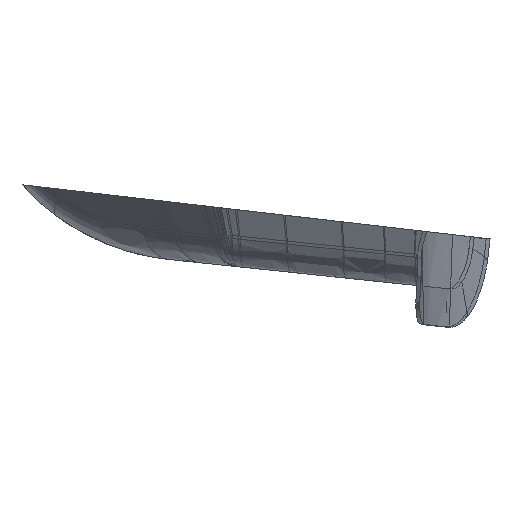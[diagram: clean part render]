
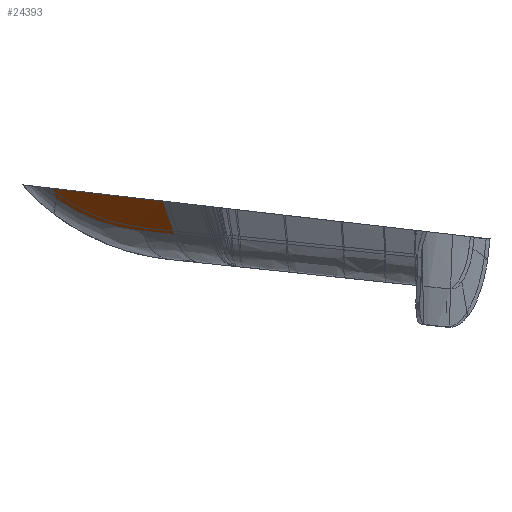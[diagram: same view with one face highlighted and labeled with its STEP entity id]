
A CAD part, front view. The second image highlights one B-rep face of the part: STEP entity #24393.
In plain terms, the highlighted free-form (B-spline) face has degree [5, 1] with [6, 2] control points.
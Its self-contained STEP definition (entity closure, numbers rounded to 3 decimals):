
#12303=CARTESIAN_POINT(' ',(-580.187,-673.21,-132.286));
#12304=VERTEX_POINT('',#12303);
#12318=CARTESIAN_POINT(' ',(-522.184,-719.062,-138.994));
#12319=VERTEX_POINT('',#12318);
#12320=CARTESIAN_POINT(' ',(-522.184,-719.062,-138.994));
#12321=CARTESIAN_POINT(' ',(-522.935,-718.526,-138.908));
#12322=CARTESIAN_POINT(' ',(-523.685,-717.991,-138.821));
#12323=CARTESIAN_POINT(' ',(-524.435,-717.454,-138.734));
#12324=CARTESIAN_POINT(' ',(-525.183,-716.916,-138.647));
#12325=CARTESIAN_POINT(' ',(-525.93,-716.375,-138.561));
#12326=CARTESIAN_POINT(' ',(-528.967,-714.178,-138.209));
#12327=CARTESIAN_POINT(' ',(-531.992,-711.962,-137.859));
#12328=CARTESIAN_POINT(' ',(-535.003,-709.728,-137.511));
#12329=CARTESIAN_POINT(' ',(-538.,-707.475,-137.165));
#12330=CARTESIAN_POINT(' ',(-540.981,-705.201,-136.82));
#12331=CARTESIAN_POINT(' ',(-549.028,-699.065,-135.889));
#12332=CARTESIAN_POINT(' ',(-556.964,-692.781,-134.974));
#12333=CARTESIAN_POINT(' ',(-564.823,-686.399,-134.058));
#12334=CARTESIAN_POINT(' ',(-572.537,-679.841,-133.176));
#12335=CARTESIAN_POINT(' ',(-580.187,-673.21,-132.286));
#12336=B_SPLINE_CURVE_WITH_KNOTS(' ',5,(#12320,#12321,#12322,#12323,#12324,#12325,#12326,#12327,#12328,#12329,#12330,#12331,#12332,#12333,#12334,#12335),.UNSPECIFIED.,.F.,.F.,(6,5,5,6),(0.0,1.0,2.0,3.0),.UNSPECIFIED.);
#12337=EDGE_CURVE('',#12319,#12304,#12336,.T.);
#20340=CARTESIAN_POINT(' ',(-533.107,-698.346,-154.706));
#20341=VERTEX_POINT('',#20340);
#20366=CARTESIAN_POINT(' ',(-577.999,-670.83,-137.886));
#20367=VERTEX_POINT('',#20366);
#20368=CARTESIAN_POINT(' ',(-577.999,-670.83,-137.886));
#20369=CARTESIAN_POINT(' ',(-577.707,-670.947,-138.091));
#20370=CARTESIAN_POINT(' ',(-577.416,-671.063,-138.296));
#20371=CARTESIAN_POINT(' ',(-577.124,-671.179,-138.5));
#20372=CARTESIAN_POINT(' ',(-576.832,-671.297,-138.704));
#20373=CARTESIAN_POINT(' ',(-576.54,-671.416,-138.906));
#20374=CARTESIAN_POINT(' ',(-575.548,-671.821,-139.589));
#20375=CARTESIAN_POINT(' ',(-574.551,-672.249,-140.249));
#20376=CARTESIAN_POINT(' ',(-573.547,-672.697,-140.887));
#20377=CARTESIAN_POINT(' ',(-572.54,-673.162,-141.505));
#20378=CARTESIAN_POINT(' ',(-571.529,-673.642,-142.106));
#20379=CARTESIAN_POINT(' ',(-568.438,-675.111,-143.944));
#20380=CARTESIAN_POINT(' ',(-565.316,-676.736,-145.595));
#20381=CARTESIAN_POINT(' ',(-562.173,-678.497,-147.069));
#20382=CARTESIAN_POINT(' ',(-559.022,-680.374,-148.372));
#20383=CARTESIAN_POINT(' ',(-555.876,-682.344,-149.513));
#20384=CARTESIAN_POINT(' ',(-551.84,-684.872,-150.978));
#20385=CARTESIAN_POINT(' ',(-547.813,-687.572,-152.149));
#20386=CARTESIAN_POINT(' ',(-543.783,-690.335,-153.191));
#20387=CARTESIAN_POINT(' ',(-539.812,-693.279,-153.842));
#20388=CARTESIAN_POINT(' ',(-535.852,-696.253,-154.388));
#20389=CARTESIAN_POINT(' ',(-535.301,-696.666,-154.464));
#20390=CARTESIAN_POINT(' ',(-534.752,-697.085,-154.529));
#20391=CARTESIAN_POINT(' ',(-534.204,-697.506,-154.588));
#20392=CARTESIAN_POINT(' ',(-533.656,-697.927,-154.645));
#20393=CARTESIAN_POINT(' ',(-533.107,-698.346,-154.706));
#20394=B_SPLINE_CURVE_WITH_KNOTS(' ',5,(#20368,#20369,#20370,#20371,#20372,#20373,#20374,#20375,#20376,#20377,#20378,#20379,#20380,#20381,#20382,#20383,#20384,#20385,#20386,#20387,#20388,#20389,#20390,#20391,#20392,#20393),.UNSPECIFIED.,.F.,.F.,(6,5,5,5,5,6),(0.0,1.0,2.0,3.0,4.0,5.0),.UNSPECIFIED.);
#20395=EDGE_CURVE('',#20367,#20341,#20394,.T.);
#20509=CARTESIAN_POINT(' ',(-516.169,-710.994,-156.425));
#20510=VERTEX_POINT('',#20509);
#20535=CARTESIAN_POINT(' ',(-516.169,-710.994,-156.425));
#20536=CARTESIAN_POINT(' ',(-516.355,-710.859,-156.406));
#20537=CARTESIAN_POINT(' ',(-516.542,-710.724,-156.387));
#20538=CARTESIAN_POINT(' ',(-516.728,-710.589,-156.368));
#20539=CARTESIAN_POINT(' ',(-516.746,-710.576,-156.366));
#20540=CARTESIAN_POINT(' ',(-516.764,-710.563,-156.365));
#20541=CARTESIAN_POINT(' ',(-516.781,-710.55,-156.363));
#20542=CARTESIAN_POINT(' ',(-517.926,-709.72,-156.247));
#20543=CARTESIAN_POINT(' ',(-519.068,-708.887,-156.131));
#20544=CARTESIAN_POINT(' ',(-520.207,-708.049,-156.016));
#20545=CARTESIAN_POINT(' ',(-520.285,-707.992,-156.008));
#20546=CARTESIAN_POINT(' ',(-520.362,-707.936,-156.));
#20547=CARTESIAN_POINT(' ',(-520.439,-707.879,-155.993));
#20548=CARTESIAN_POINT(' ',(-520.45,-707.871,-155.991));
#20549=CARTESIAN_POINT(' ',(-520.461,-707.863,-155.99));
#20550=CARTESIAN_POINT(' ',(-520.472,-707.855,-155.989));
#20551=CARTESIAN_POINT(' ',(-521.88,-706.819,-155.847));
#20552=CARTESIAN_POINT(' ',(-523.285,-705.777,-155.704));
#20553=CARTESIAN_POINT(' ',(-524.686,-704.731,-155.562));
#20554=CARTESIAN_POINT(' ',(-524.693,-704.726,-155.562));
#20555=CARTESIAN_POINT(' ',(-524.699,-704.721,-155.561));
#20556=CARTESIAN_POINT(' ',(-524.706,-704.716,-155.56));
#20557=CARTESIAN_POINT(' ',(-527.521,-702.612,-155.275));
#20558=CARTESIAN_POINT(' ',(-530.32,-700.487,-154.99));
#20559=CARTESIAN_POINT(' ',(-533.107,-698.346,-154.706));
#20560=B_SPLINE_CURVE_WITH_KNOTS(' ',3,(#20535,#20536,#20537,#20538,#20539,#20540,#20541,#20542,#20543,#20544,#20545,#20546,#20547,#20548,#20549,#20550,#20551,#20552,#20553,#20554,#20555,#20556,#20557,#20558,#20559),.UNSPECIFIED.,.F.,.F.,(4,3,3,3,3,3,3,3,4),(0.0,1.0,2.0,3.0,4.0,5.0,6.0,7.0,8.0),.UNSPECIFIED.);
#20561=EDGE_CURVE('',#20510,#20341,#20560,.T.);
#24338=CARTESIAN_POINT(' ',(-516.169,-710.994,-156.425));
#24339=CARTESIAN_POINT(' ',(-518.174,-713.684,-150.615));
#24340=CARTESIAN_POINT(' ',(-520.179,-716.373,-144.804));
#24341=CARTESIAN_POINT(' ',(-522.184,-719.062,-138.994));
#24342=B_SPLINE_CURVE_WITH_KNOTS(' ',3,(#24338,#24339,#24340,#24341),.UNSPECIFIED.,.F.,.F.,(4,4),(0.0,1.0),.UNSPECIFIED.);
#24343=EDGE_CURVE('',#20510,#12319,#24342,.T.);
#24367=ORIENTED_EDGE('',*,*,#24343,.T.);
#24368=ORIENTED_EDGE('',*,*,#12337,.T.);
#24369=CARTESIAN_POINT(' ',(-580.187,-673.21,-132.286));
#24370=CARTESIAN_POINT(' ',(-579.457,-672.417,-134.153));
#24371=CARTESIAN_POINT(' ',(-578.728,-671.623,-136.02));
#24372=CARTESIAN_POINT(' ',(-577.999,-670.83,-137.886));
#24373=B_SPLINE_CURVE_WITH_KNOTS(' ',3,(#24369,#24370,#24371,#24372),.UNSPECIFIED.,.F.,.F.,(4,4),(0.0,1.0),.UNSPECIFIED.);
#24374=EDGE_CURVE('',#12304,#20367,#24373,.T.);
#24375=ORIENTED_EDGE('',*,*,#24374,.T.);
#24376=ORIENTED_EDGE('',*,*,#20395,.T.);
#24377=ORIENTED_EDGE('',*,*,#20561,.F.);
#24378=EDGE_LOOP('',(#24367,#24368,#24375,#24376,#24377));
#24379=FACE_OUTER_BOUND('',#24378,.T.);
#24380=CARTESIAN_POINT(' ',(-572.32,-664.535,-152.57));
#24381=CARTESIAN_POINT(' ',(-580.235,-673.261,-132.165));
#24382=CARTESIAN_POINT(' ',(-561.495,-674.354,-153.327));
#24383=CARTESIAN_POINT(' ',(-569.258,-683.218,-132.921));
#24384=CARTESIAN_POINT(' ',(-550.461,-683.934,-154.102));
#24385=CARTESIAN_POINT(' ',(-558.062,-692.939,-133.697));
#24386=CARTESIAN_POINT(' ',(-539.211,-693.251,-154.898));
#24387=CARTESIAN_POINT(' ',(-546.641,-702.399,-134.493));
#24388=CARTESIAN_POINT(' ',(-527.779,-702.25,-155.712));
#24389=CARTESIAN_POINT(' ',(-535.02,-711.547,-135.307));
#24390=CARTESIAN_POINT(' ',(-516.127,-710.938,-156.546));
#24391=CARTESIAN_POINT(' ',(-523.169,-720.383,-136.141));
#24392=B_SPLINE_SURFACE_WITH_KNOTS('',5,1,((#24380,#24381),(#24382,#24383),(#24384,#24385),(#24386,#24387),(#24388,#24389),(#24390,#24391)),.UNSPECIFIED.,.U.,.U.,.F.,(6,6),(2,2),(0.0,1.0),(0.0,1.0),.UNSPECIFIED.);
#24393=ADVANCED_FACE(' ',(#24379),#24392,.T.);
